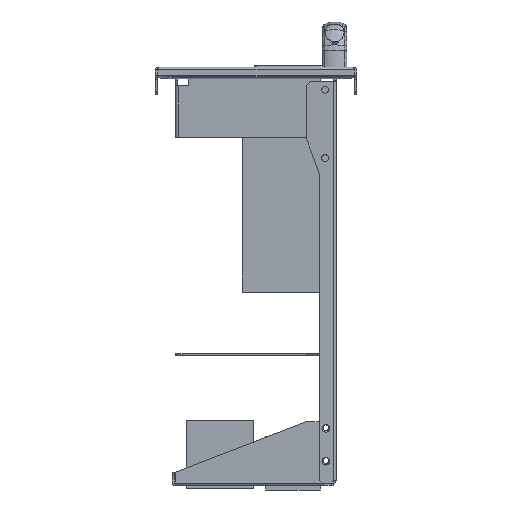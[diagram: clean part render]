
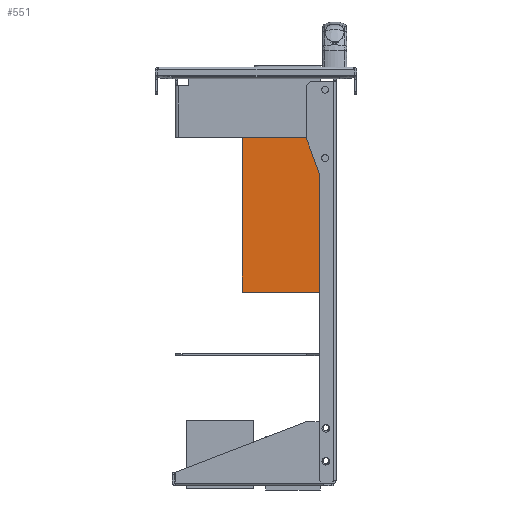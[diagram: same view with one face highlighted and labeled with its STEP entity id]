
A CAD part, left-side view. The second image highlights one B-rep face of the part: STEP entity #551.
In plain terms, the highlighted planar face has unit normal (-1, 0, 0).
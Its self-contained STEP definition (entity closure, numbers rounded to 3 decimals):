
#376=DIRECTION(' ',(-1.,-0.,0.));
#381=CARTESIAN_POINT(' ',(-12.5,0.,76.));
#386=DIRECTION(' ',(0.,1.,0.));
#391=AXIS2_PLACEMENT_3D(' ',#381,#376,#386);
#396=PLANE('NONE',#391);
#401=CARTESIAN_POINT(' ',(-12.5,0.,-76.));
#406=DIRECTION(' ',(0.,0.,1.));
#411=VECTOR(' ',#406,1.);
#416=LINE('',#401,#411);
#421=CARTESIAN_POINT(' ',(-12.5,0.,-76.));
#422=VERTEX_POINT(' ',#421);
#426=CARTESIAN_POINT(' ',(-12.5,0.,76.));
#427=VERTEX_POINT(' ',#426);
#431=EDGE_CURVE(' ',#422,#427,#416,.T.);
#436=ORIENTED_EDGE(' ',*,*,#431,.T.);
#441=CARTESIAN_POINT(' ',(-12.5,67.,76.));
#446=DIRECTION(' ',(0.,-1.,0.));
#451=VECTOR(' ',#446,1.);
#456=LINE('',#441,#451);
#461=CARTESIAN_POINT(' ',(-12.5,67.,76.));
#462=VERTEX_POINT(' ',#461);
#466=EDGE_CURVE(' ',#462,#427,#456,.T.);
#471=ORIENTED_EDGE(' ',*,*,#466,.F.);
#476=CARTESIAN_POINT(' ',(-12.5,67.,-76.));
#481=DIRECTION(' ',(0.,0.,1.));
#486=VECTOR(' ',#481,1.);
#491=LINE('',#476,#486);
#496=CARTESIAN_POINT(' ',(-12.5,67.,-76.));
#497=VERTEX_POINT(' ',#496);
#501=EDGE_CURVE(' ',#497,#462,#491,.T.);
#506=ORIENTED_EDGE(' ',*,*,#501,.F.);
#511=CARTESIAN_POINT(' ',(-12.5,67.,-76.));
#516=DIRECTION(' ',(0.,-1.,0.));
#521=VECTOR(' ',#516,1.);
#526=LINE('',#511,#521);
#531=EDGE_CURVE(' ',#497,#422,#526,.T.);
#536=ORIENTED_EDGE(' ',*,*,#531,.T.);
#541=EDGE_LOOP(' ',(#436,#471,#506,#536));
#546=FACE_OUTER_BOUND(' ',#541,.T.);
#551=ADVANCED_FACE('NONE',(#546),#396,.T.);
